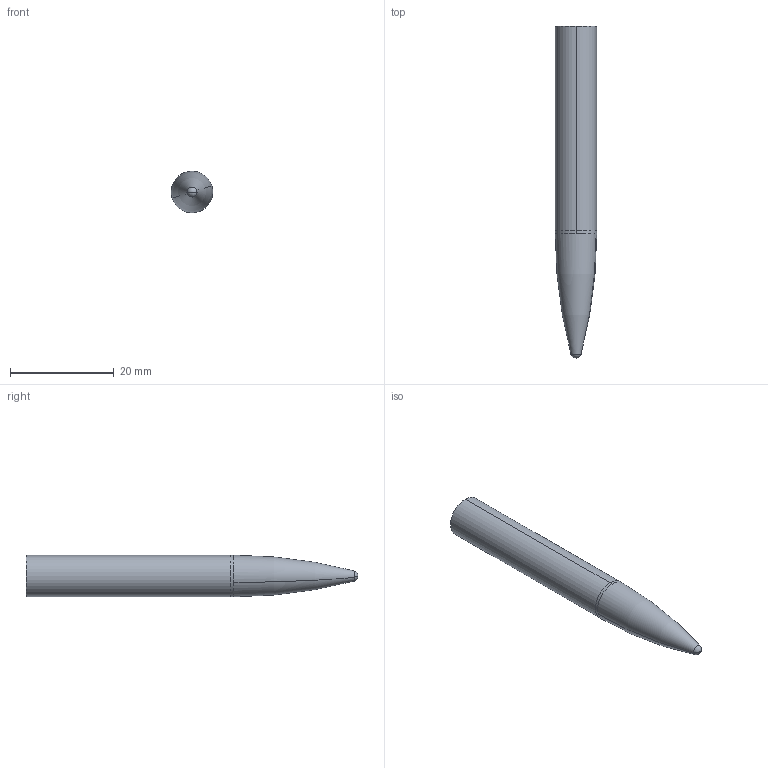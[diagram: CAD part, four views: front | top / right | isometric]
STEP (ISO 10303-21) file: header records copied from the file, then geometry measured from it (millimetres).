
FILE_DESCRIPTION((' '),'2;1');
FILE_NAME( '8MM X R90MM OVAL.stp', '2023-03-22T15:23:07', (' '), ('--- Datakit www.datakit.com---'), ' Datakit CrossCadWare V2022.2 Mar 12 2022', 'Mastercam 2023', ' ');
FILE_SCHEMA(('AUTOMOTIVE_DESIGN { 1 0 10303 214 1 1 1 1 }'));
Length unit declared in the file: inch
Products named in the file (1): 8MM X R90MM OVAL
Bounding box: 8 x 64 x 8 mm (x, y, z)
Volume: 2728.8 mm3; surface area: 1502.2 mm2
Topology: 1 solids, 1 shells, 9 faces, 23 edges, 14 vertices
Faces by surface type: cylinder 4, sphere 2, torus 2, plane 1
Entity records: 296 total; most frequent: DIRECTION 58, CARTESIAN_POINT 45, ORIENTED_EDGE 42, AXIS2_PLACEMENT_3D 27, EDGE_CURVE 21, CIRCLE 17, VERTEX_POINT 14, EDGE_LOOP 9
